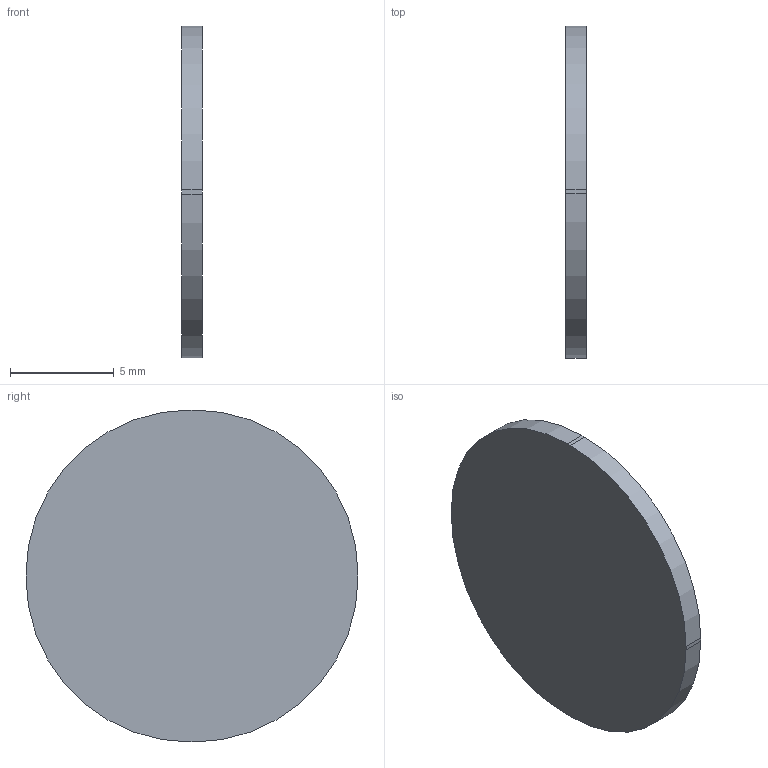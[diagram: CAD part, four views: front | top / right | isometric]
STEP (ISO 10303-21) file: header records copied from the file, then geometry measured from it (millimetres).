
FILE_DESCRIPTION(('Open CASCADE Model'),'2;1');
FILE_NAME('Open CASCADE Shape Model','2026-09-06T11:30:36',('Author'),( 'Open CASCADE'),'Open CASCADE STEP processor 7.7','Open CASCADE 7.7' ,'Unknown');
FILE_SCHEMA(('AUTOMOTIVE_DESIGN { 1 0 10303 214 1 1 1 1 }'));
Length unit declared in the file: millimetre
Products named in the file (1): Open CASCADE STEP translator 7.7 7
Bounding box: 1 x 16 x 16 mm (x, y, z)
Volume: 200.3 mm3; surface area: 460.2 mm2
Topology: 1 solids, 1 shells, 15 faces, 36 edges, 24 vertices
Faces by surface type: plane 11, cylinder 4
Entity records: 928 total; most frequent: CARTESIAN_POINT 172, DIRECTION 144, LINE 92, VECTOR 92, ORIENTED_EDGE 72, PCURVE 72, DEFINITIONAL_REPRESENTATION 72, EDGE_CURVE 36
